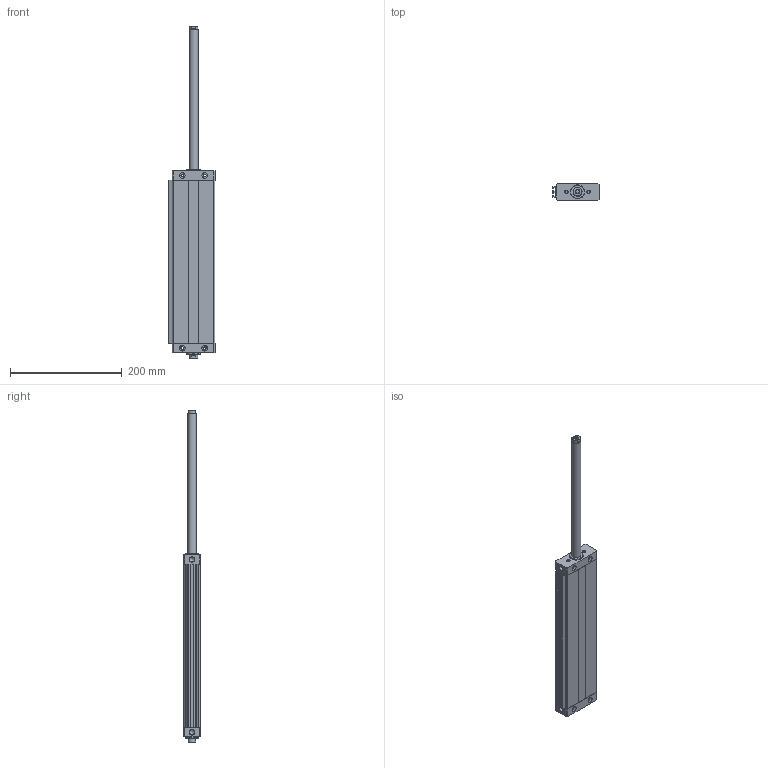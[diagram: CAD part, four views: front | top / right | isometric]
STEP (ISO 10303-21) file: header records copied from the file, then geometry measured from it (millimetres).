
FILE_DESCRIPTION((''),'2;1');
FILE_NAME('I:\Area Tecnica\Disegni\VARIE-3D\Componenti\1370 - CPO\1370_##_0000_03\1370_40_0250_03-01.iam.step','2010-12-16T10:57:18',(''),(''),'Autodesk Inventor 2011','Autodesk Inventor 2011','');
FILE_SCHEMA(('AUTOMOTIVE_DESIGN { 1 0 10303 214 1 1 1 1 }'));
Length unit declared in the file: millimetre
Products named in the file (5): 1370_40_0250_03-01; 1370_05_40_0000; 1370_06_40_0250; 1370_08_40_0000; 1370_3_40_0250
Assembly tree (4 placements, depth 2):
  1370_40_0250_03-01
    1370_05_40_0000
    1370_06_40_0250
    1370_08_40_0000
    1370_3_40_0250
Bounding box: 82.5 x 30 x 594 mm (x, y, z)
Volume: 503814.5 mm3; surface area: 178488.1 mm2
Topology: 4 solids, 4 shells, 166 faces, 398 edges, 254 vertices
Faces by surface type: plane 94, cylinder 48, cone 24
Full cylindrical faces by diameter (mm): 5 x10, 6.8 x2, 8.4 x2, 8.7 x2, 10 x8, 15.5 x2, 16 x4, 25 x2
Entity records: 4848 total; most frequent: DIRECTION 802, CARTESIAN_POINT 799, ORIENTED_EDGE 672, EDGE_CURVE 336, AXIS2_PLACEMENT_3D 299, EDGE_LOOP 254, VERTEX_POINT 244, VECTOR 204
